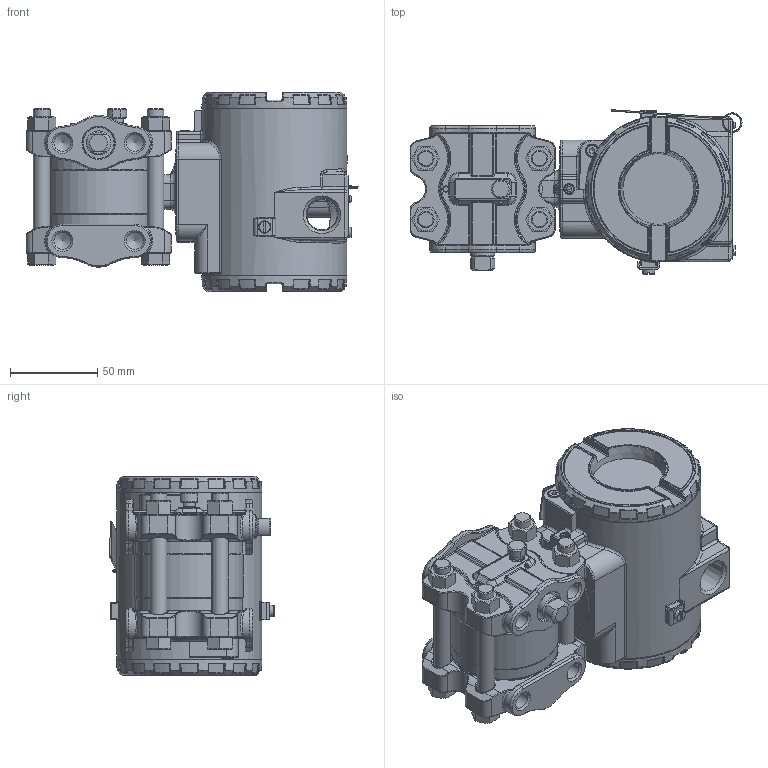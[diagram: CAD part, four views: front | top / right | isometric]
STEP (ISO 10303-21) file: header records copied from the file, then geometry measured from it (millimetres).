
FILE_DESCRIPTION(/* description */ (''),/* implementation_level */ '2;1');
FILE_NAME(/* name */ 'F:\Area\Desenvolvimento_2\Projects\Sensor\projetos\LD30X\montagens 3d - clientes\LD30XM4 1-4NPT purga acima.stp',/* time_stamp */ '2023-01-26T13:39:40-03:00',/* author */ ('inventor02'),/* organization */ (''),/* preprocessor_version */ 'ST-DEVELOPER v17',/* originating_system */ 'Autodesk Inventor 2019',/* authorisation */ '');
FILE_SCHEMA (('CONFIG_CONTROL_DESIGN'));
Length unit declared in the file: millimetre
Products named in the file (30): LD30XM4 1-4NPT purga acima; manometrico standard fx4 purga acima; Flange manometrico standard; flange diferencial std purga; bujao 1-4NPT; Sangria; Paraf. 3-8 x 16 UNC; Porca 3-8 x 16 UNC; involucro fx4 apos a usinagem final; carcaça vazia com tampas e plaqueta; carcaça LD inox sem letras; Subconjunto plaqueta 300; Plaqueta transmissor; Parafuso da Plaqueta; Rebite da Plaqueta; 096-A-0169-03; 101-A-0502-01; Chapa aterramento externo; ISO 1207 - M4 x 8; DIN 915 - M6 x 10; ANSI B18.3.1M - M4x0,7 x 8; Subconjunto tampa com visor aluminio; tampa pintada; VIDRO DO VISOR; oring 41x1 vidro tampa; Trava do vidro da tampa com visor; trava do vidro VH256; Subconjunto tampa sem visor-aluminio; tampa cega 300 pintada p0; 00034775-0
Assembly tree (37 placements, depth 4):
  LD30XM4 1-4NPT purga acima
    manometrico standard fx4 purga acima
      Flange manometrico standard
      flange diferencial std purga
      bujao 1-4NPT
      Sangria
      Paraf. 3-8 x 16 UNC  x4
      Porca 3-8 x 16 UNC  x4
      involucro fx4 apos a usinagem final
    carcaça vazia com tampas e plaqueta
      carcaça LD inox sem letras
      Subconjunto plaqueta 300
        Plaqueta transmissor
        Parafuso da Plaqueta
        Rebite da Plaqueta
        096-A-0169-03
        101-A-0502-01
      Chapa aterramento externo
      ISO 1207 - M4 x 8
      DIN 915 - M6 x 10
      ANSI B18.3.1M - M4x0,7 x 8  x2
      Subconjunto tampa com visor aluminio
        tampa pintada
        VIDRO DO VISOR
        oring 41x1 vidro tampa
        Trava do vidro da tampa com visor
        trava do vidro VH256
        00034775-0
      Subconjunto tampa sem visor-aluminio
        tampa cega 300 pintada p0
        00034775-0
Bounding box: 189.78 x 93.95 x 114 mm (x, y, z)
Volume: 570472.5 mm3; surface area: 227357.4 mm2
Topology: 32 solids, 32 shells, 2626 faces, 6301 edges, 3698 vertices
Faces by surface type: bspline 729, cylinder 609, plane 498, torus 448, cone 230, sphere 112
Full cylindrical faces by diameter (mm): 2 x3, 2.1 x2, 2.459 x5, 2.642 x1, 2.7 x1, 3 x3, 3.242 x4, 3.5 x4, 3.571 x1, 4 x4, 4.3 x1, 4.4 x1, 4.917 x1, 5.5 x3, 6 x2, 6.647 x1, 7 x5, 7.087 x2, 7.6 x2, 7.798 x4, 8 x1, 8.7 x2, 9.525 x4, 9.728 x8, 10.5 x8, 10.719 x2, 13.8 x1, 14 x1, 17.475 x2, 18.5 x2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
Entity records: 93541 total; most frequent: CARTESIAN_POINT 36302, ORIENTED_EDGE 12030, DIRECTION 11553, EDGE_CURVE 6015, AXIS2_PLACEMENT_3D 5089, VERTEX_POINT 3572, CIRCLE 2995, EDGE_LOOP 2637
